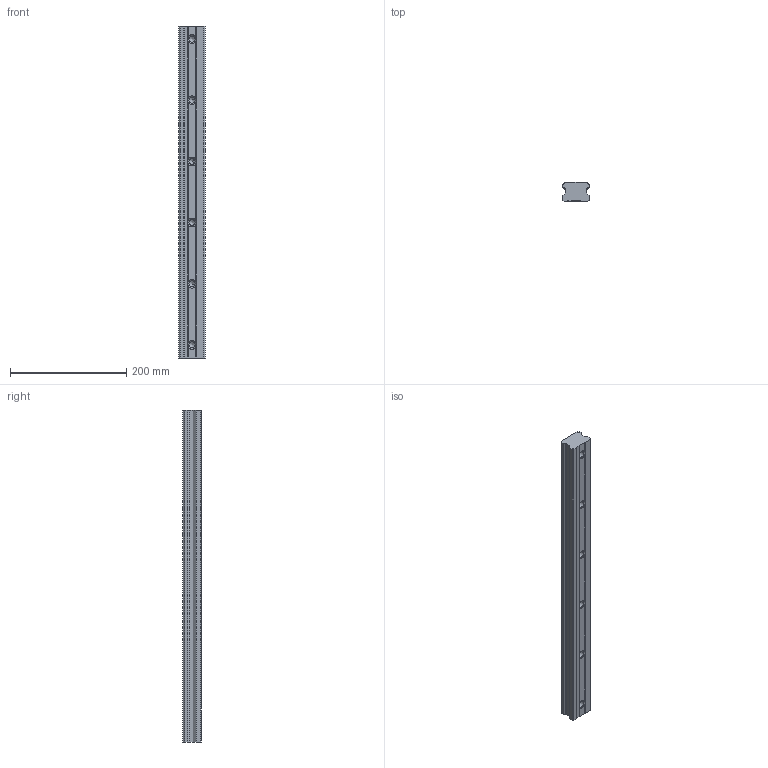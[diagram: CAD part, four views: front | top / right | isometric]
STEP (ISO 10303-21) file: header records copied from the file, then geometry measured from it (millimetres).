
FILE_DESCRIPTION (( 'STEP AP203' ), '1' );
FILE_NAME ('SBI 45 - B.STEP', '2014-08-05T09:28:36', ( 'star' ), ( '' ), 'SwSTEP 2.0', 'SolidWorks 2013', '' );
FILE_SCHEMA (( 'CONFIG_CONTROL_DESIGN' ));
Length unit declared in the file: millimetre
Products named in the file (1): SBI 45 - B
Bounding box: 45 x 32 x 570 mm (x, y, z)
Volume: 737009.6 mm3; surface area: 96767.3 mm2
Topology: 1 solids, 1 shells, 128 faces, 348 edges, 210 vertices
Faces by surface type: cylinder 47, plane 45, cone 36
Entity records: 4179 total; most frequent: CARTESIAN_POINT 963, ORIENTED_EDGE 672, DIRECTION 652, EDGE_CURVE 336, AXIS2_PLACEMENT_3D 235, VERTEX_POINT 210, LINE 182, VECTOR 182
